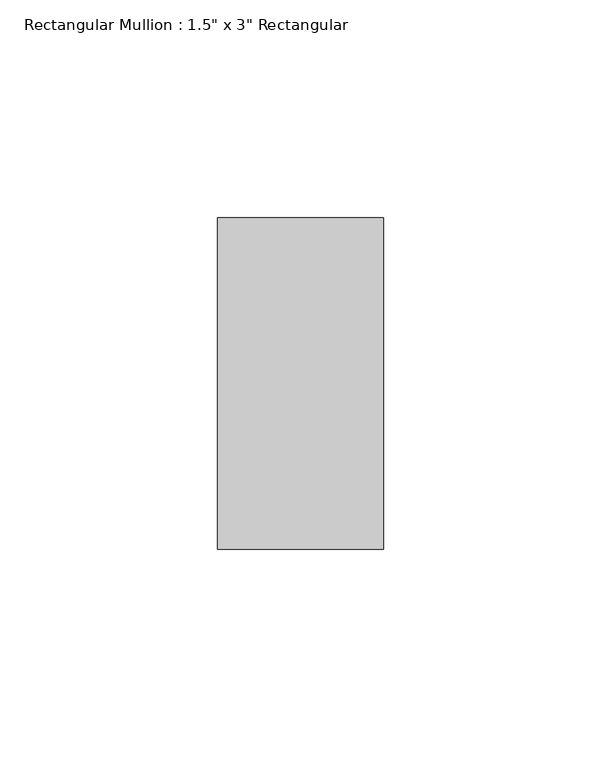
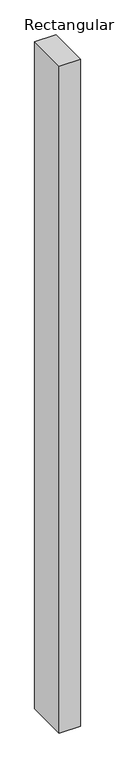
"""IFC4 building model written with IfcOpenShell, lengths in millimetres: member geometry."""

from ifc_helpers import new_model, si_unit, frame, origin, place, context, project, spatial, polyline, outline, extrude, source, transform, mapped, element, save


def member_48f43a20(model_context):
    return source(origin(), model_context, "Body", "SweptSolid", [
        extrude(outline(polyline([(19.05, 38.1), (19.05, -38.1), (-19.05, -38.1), (-19.05, 38.1), (19.05, 38.1)])), frame((0.0, 0.0, -1268.206565), z_axis=(0.0, 0.0, 1.0), x_axis=(1.0, 0.0, 0.0)), (0.0, 0.0, 1.0), 1268.206565),
    ])


if __name__ == "__main__":
    model = new_model("IFC4")
    model_context = context("Model", 3, world=origin())
    ifc_project = project(units=[si_unit("LENGTHUNIT", "METRE", prefix="MILLI")], contexts=[model_context])
    site = spatial("IfcSite", under=ifc_project)
    building = spatial("IfcBuilding", under=site)
    placement = place(None, origin())
    member_shape = member_48f43a20(model_context)
    element("IfcMember", 1, ObjectType="Rectangular Mullion : 1.5\" x 3\" Rectangular", at=placement, inside=building, context=model_context, shape_type="MappedRepresentation", body=[
        mapped(member_shape, transform((0.0, 0.0, 0.0), x_axis=(1.0, 0.0, 0.0), y_axis=(0.0, 1.0, 0.0), z_axis=(0.0, 0.0, 1.0))),
    ])
    save(model, "model.ifc")
